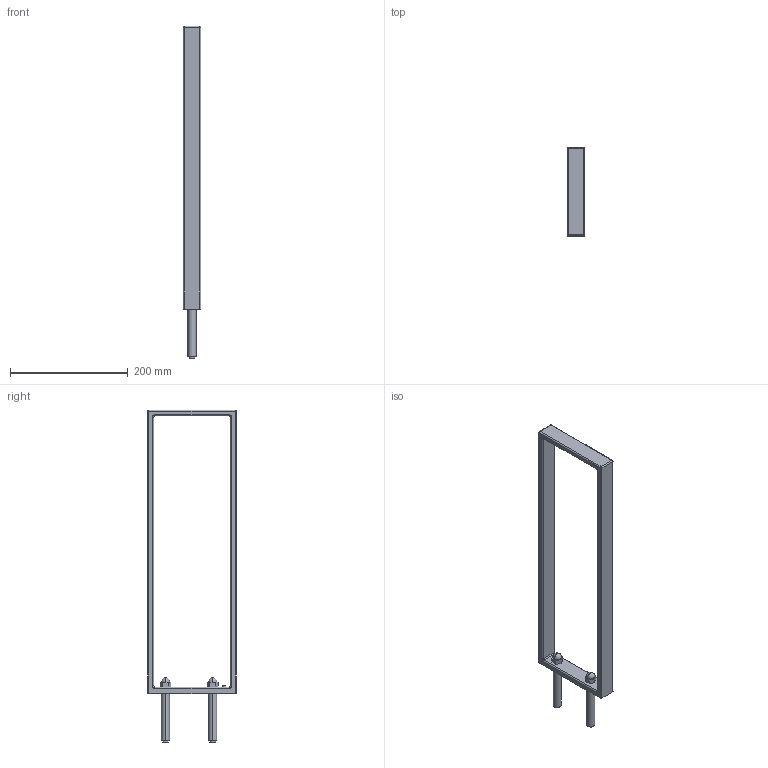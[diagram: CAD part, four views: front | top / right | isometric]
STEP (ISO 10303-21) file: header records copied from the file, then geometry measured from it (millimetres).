
FILE_DESCRIPTION (( 'STEP AP203' ), '1' );
FILE_NAME ('MIS ST.STEP', '2019-02-07T12:48:31', ( '' ), ( '' ), 'SwSTEP 2.0', 'SolidWorks 2019', '' );
FILE_SCHEMA (( 'CONFIG_CONTROL_DESIGN' ));
Length unit declared in the file: millimetre
Products named in the file (7): barra filettata; staffa portasciugamano MISURA2; GRANO; MIS ST; CONTROPIASTRA STAFFA portasciugamano; bullone cieco; tassello x t bond
Assembly tree (9 placements, depth 2):
  MIS ST
    staffa portasciugamano MISURA2
    bullone cieco  x2
    barra filettata  x2
    GRANO
    tassello x t bond  x2
    CONTROPIASTRA STAFFA portasciugamano
Bounding box: 30 x 150 x 563 mm (x, y, z)
Volume: 396873 mm3; surface area: 123691.7 mm2
Topology: 9 solids, 9 shells, 123 faces, 276 edges, 170 vertices
Faces by surface type: plane 53, cylinder 52, torus 8, sphere 8, cone 2
Entity records: 3515 total; most frequent: DIRECTION 526, CARTESIAN_POINT 452, ORIENTED_EDGE 424, EDGE_CURVE 212, AXIS2_PLACEMENT_3D 205, VERTEX_POINT 131, VECTOR 116, LINE 116
